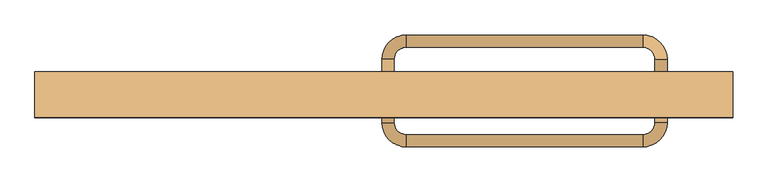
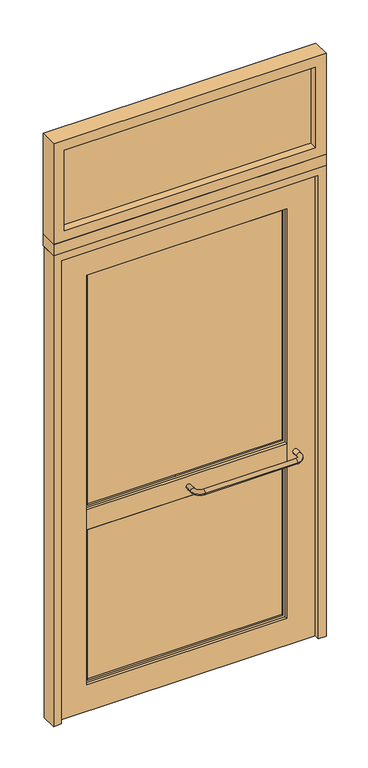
"""IFC4 building model written with IfcOpenShell, lengths in millimetres: door geometry, A3 Puerta batiente exterior VF superior : A3.3 Puerta batiente simple-exterior 115X260."""

from ifc_helpers import new_model, si_unit, point, frame, origin, place, context, project, spatial, polyline, circle_curve, ellipse_curve, trimmed, outline, extrude, source, transform, mapped, element, save
from ifc_brep_helpers import plane_surface, cylinder_surface, revolved_surface, advanced_brep


def door_468d9a70(model_context):
    return source(origin(), model_context, "Body", "SolidModel", [
        advanced_brep(
        [(17.0, -140.5, 855.0), (-3.0, -140.5, 855.0), (-3.0, -170.5, 855.0), (17.0, -170.5, 855.0), (37.0, -190.5, 855.0), (37.0, -210.5, 855.0), (427.0, -210.5, 855.0), (427.0, -190.5, 855.0), (447.0, -170.5, 855.0), (467.0, -170.5, 855.0), (447.0, -140.5, 855.0), (467.0, -140.5, 855.0)],
        [
            (0, 1, circle_curve(frame((7.0, -140.5, 855.0), z_axis=(0.0, 1.0, 0.0), x_axis=(-1.0, 0.0, 0.0)), 10.0)),
            (1, 0, circle_curve(frame((7.0, -140.5, 855.0), z_axis=(0.0, 1.0, 0.0), x_axis=(-1.0, 0.0, 0.0)), 10.0)),
            (1, 2),
            (2, 3, circle_curve(frame((7.0, -170.5, 855.0), z_axis=(0.0, 1.0, 0.0), x_axis=(-1.0, 0.0, 0.0)), 10.0)),
            (3, 0),
            (3, 2, circle_curve(frame((7.0, -170.5, 855.0), z_axis=(0.0, 1.0, 0.0), x_axis=(-1.0, 0.0, 0.0)), 10.0)),
            (4, 3, circle_curve(frame((37.0, -170.5, 855.0), z_axis=(0.0, 0.0, -1.0), x_axis=(-1.0, 0.0, 0.0)), 20.0)),
            (2, 5, circle_curve(frame((37.0, -170.5, 855.0), z_axis=(0.0, 0.0, 1.0), x_axis=(-1.0, 0.0, 0.0)), 40.0)),
            (5, 4, circle_curve(frame((37.0, -200.5, 855.0), z_axis=(-1.0, 0.0, 0.0), x_axis=(0.0, -1.0, 0.0)), 10.0)),
            (4, 5, circle_curve(frame((37.0, -200.5, 855.0), z_axis=(-1.0, 0.0, 0.0), x_axis=(0.0, -1.0, 0.0)), 10.0)),
            (5, 6),
            (6, 7, circle_curve(frame((427.0, -200.5, 855.0), z_axis=(-1.0, 0.0, 0.0), x_axis=(0.0, -1.0, 0.0)), 10.0)),
            (7, 4),
            (7, 6, circle_curve(frame((427.0, -200.5, 855.0), z_axis=(-1.0, 0.0, 0.0), x_axis=(0.0, -1.0, 0.0)), 10.0)),
            (8, 7, circle_curve(frame((427.0, -170.5, 855.0), z_axis=(0.0, 0.0, -1.0), x_axis=(0.0, -1.0, 0.0)), 20.0)),
            (6, 9, circle_curve(frame((427.0, -170.5, 855.0), z_axis=(0.0, 0.0, 1.0), x_axis=(0.0, -1.0, 0.0)), 40.0)),
            (9, 8, circle_curve(frame((457.0, -170.5, 855.0), z_axis=(0.0, -1.0, 0.0), x_axis=(1.0, 0.0, 0.0)), 10.0)),
            (8, 9, circle_curve(frame((457.0, -170.5, 855.0), z_axis=(0.0, -1.0, 0.0), x_axis=(1.0, 0.0, 0.0)), 10.0)),
            (10, 11, circle_curve(frame((457.0, -140.5, 855.0), z_axis=(0.0, 1.0, 0.0), x_axis=(1.0, 0.0, 0.0)), 10.0)),
            (11, 10, circle_curve(frame((457.0, -140.5, 855.0), z_axis=(0.0, 1.0, 0.0), x_axis=(1.0, 0.0, 0.0)), 10.0)),
            (9, 11),
            (10, 8),
        ],
        [
            plane_surface(frame((7.0, -140.5, 855.0), z_axis=(0.0, 1.0, 0.0), x_axis=(0.0, 0.0, 1.0))),
            cylinder_surface(frame((7.0, -140.5, 855.0), z_axis=(0.0, 1.0, 0.0), x_axis=(-1.0, 0.0, 0.0)), 10.0),
            revolved_surface(trimmed(ellipse_curve(frame((7.0, -170.5, 855.0), z_axis=(0.0, 1.0, 0.0), x_axis=(-1.0, 0.0, 0.0)), 10.0, 10.0), [point((-3.0, -170.5, 855.0))], [point((17.0, -170.5, 855.0))], True, "CARTESIAN"), (37.0, -170.5, 855.0), (0.0, 0.0, 1.0)),
            revolved_surface(trimmed(ellipse_curve(frame((7.0, -170.5, 855.0), z_axis=(0.0, 1.0, 0.0), x_axis=(-1.0, 0.0, 0.0)), 10.0, 10.0), [point((17.0, -170.5, 855.0))], [point((-3.0, -170.5, 855.0))], True, "CARTESIAN"), (37.0, -170.5, 855.0), (0.0, 0.0, 1.0)),
            cylinder_surface(frame((37.0, -200.5, 855.0), z_axis=(-1.0, 0.0, 0.0), x_axis=(0.0, -1.0, 0.0)), 10.0),
            revolved_surface(trimmed(ellipse_curve(frame((427.0, -200.5, 855.0), z_axis=(-1.0, 0.0, 0.0), x_axis=(0.0, -1.0, 0.0)), 10.0, 10.0), [point((427.0, -210.5, 855.0))], [point((427.0, -190.5, 855.0))], True, "CARTESIAN"), (427.0, -170.5, 855.0), (0.0, 0.0, 1.0)),
            revolved_surface(trimmed(ellipse_curve(frame((427.0, -200.5, 855.0), z_axis=(-1.0, 0.0, 0.0), x_axis=(0.0, -1.0, 0.0)), 10.0, 10.0), [point((427.0, -190.5, 855.0))], [point((427.0, -210.5, 855.0))], True, "CARTESIAN"), (427.0, -170.5, 855.0), (0.0, 0.0, 1.0)),
            plane_surface(frame((457.0, -140.5, 855.0), z_axis=(0.0, 1.0, 0.0), x_axis=(0.0, 0.0, 1.0))),
            cylinder_surface(frame((457.0, -170.5, 855.0), z_axis=(0.0, -1.0, 0.0), x_axis=(1.0, 0.0, 0.0)), 10.0),
        ],
        [
            (0, [[1, 2]]),
            (1, [[-2, 3, 4, 5]]),
            (1, [[-1, -5, 6, -3]]),
            (2, [[7, -4, 8, 9]]),
            (3, [[-8, -6, -7, 10]]),
            (4, [[-9, 11, 12, 13]]),
            (4, [[-10, -13, 14, -11]]),
            (5, [[15, -12, 16, 17]]),
            (6, [[-16, -14, -15, 18]]),
            (7, [[19, 20]]),
            (8, [[-17, 21, -19, 22]]),
            (8, [[-18, -22, -20, -21]]),
        ],
    ),
        advanced_brep(
        [(17.0, -96.5, 855.0), (-3.0, -96.5, 855.0), (17.0, -66.5, 855.0), (-3.0, -66.5, 855.0), (37.0, -46.5, 855.0), (37.0, -26.5, 855.0), (427.0, -46.5, 855.0), (427.0, -26.5, 855.0), (447.0, -66.5, 855.0), (467.0, -66.5, 855.0), (447.0, -96.5, 855.0), (467.0, -96.5, 855.0)],
        [
            (0, 1, circle_curve(frame((7.0, -96.5, 855.0), z_axis=(0.0, -1.0, 0.0), x_axis=(-1.0, 0.0, 0.0)), 10.0)),
            (1, 0, circle_curve(frame((7.0, -96.5, 855.0), z_axis=(0.0, -1.0, 0.0), x_axis=(-1.0, 0.0, 0.0)), 10.0)),
            (0, 2),
            (2, 3, circle_curve(frame((7.0, -66.5, 855.0), z_axis=(0.0, -1.0, 0.0), x_axis=(-1.0, 0.0, 0.0)), 10.0)),
            (3, 1),
            (3, 2, circle_curve(frame((7.0, -66.5, 855.0), z_axis=(0.0, -1.0, 0.0), x_axis=(-1.0, 0.0, 0.0)), 10.0)),
            (4, 5, circle_curve(frame((37.0, -36.5, 855.0), z_axis=(-1.0, 0.0, 0.0), x_axis=(0.0, 1.0, 0.0)), 10.0)),
            (5, 3, circle_curve(frame((37.0, -66.5, 855.0), z_axis=(0.0, 0.0, 1.0), x_axis=(-1.0, 0.0, 0.0)), 40.0)),
            (2, 4, circle_curve(frame((37.0, -66.5, 855.0), z_axis=(0.0, 0.0, -1.0), x_axis=(-1.0, 0.0, 0.0)), 20.0)),
            (5, 4, circle_curve(frame((37.0, -36.5, 855.0), z_axis=(-1.0, 0.0, 0.0), x_axis=(0.0, 1.0, 0.0)), 10.0)),
            (4, 6),
            (6, 7, circle_curve(frame((427.0, -36.5, 855.0), z_axis=(-1.0, 0.0, 0.0), x_axis=(0.0, 1.0, 0.0)), 10.0)),
            (7, 5),
            (7, 6, circle_curve(frame((427.0, -36.5, 855.0), z_axis=(-1.0, 0.0, 0.0), x_axis=(0.0, 1.0, 0.0)), 10.0)),
            (8, 9, circle_curve(frame((457.0, -66.5, 855.0), z_axis=(0.0, 1.0, 0.0), x_axis=(1.0, 0.0, 0.0)), 10.0)),
            (9, 7, circle_curve(frame((427.0, -66.5, 855.0), z_axis=(0.0, 0.0, 1.0), x_axis=(0.0, 1.0, 0.0)), 40.0)),
            (6, 8, circle_curve(frame((427.0, -66.5, 855.0), z_axis=(0.0, 0.0, -1.0), x_axis=(0.0, 1.0, 0.0)), 20.0)),
            (9, 8, circle_curve(frame((457.0, -66.5, 855.0), z_axis=(0.0, 1.0, 0.0), x_axis=(1.0, 0.0, 0.0)), 10.0)),
            (10, 11, circle_curve(frame((457.0, -96.5, 855.0), z_axis=(0.0, -1.0, 0.0), x_axis=(1.0, 0.0, 0.0)), 10.0)),
            (11, 10, circle_curve(frame((457.0, -96.5, 855.0), z_axis=(0.0, -1.0, 0.0), x_axis=(1.0, 0.0, 0.0)), 10.0)),
            (8, 10),
            (11, 9),
        ],
        [
            plane_surface(frame((7.0, -96.5, 855.0), z_axis=(0.0, -1.0, 0.0), x_axis=(0.0, 0.0, 1.0))),
            cylinder_surface(frame((7.0, -96.5, 855.0), z_axis=(0.0, -1.0, 0.0), x_axis=(-1.0, 0.0, 0.0)), 10.0),
            revolved_surface(trimmed(ellipse_curve(frame((7.0, -66.5, 855.0), z_axis=(0.0, 1.0, 0.0), x_axis=(-1.0, 0.0, 0.0)), 10.0, 10.0), [point((-3.0, -66.5, 855.0))], [point((17.0, -66.5, 855.0))], True, "CARTESIAN"), (37.0, -66.5, 855.0), (0.0, 0.0, 1.0)),
            revolved_surface(trimmed(ellipse_curve(frame((7.0, -66.5, 855.0), z_axis=(0.0, 1.0, 0.0), x_axis=(-1.0, 0.0, 0.0)), 10.0, 10.0), [point((17.0, -66.5, 855.0))], [point((-3.0, -66.5, 855.0))], True, "CARTESIAN"), (37.0, -66.5, 855.0), (0.0, 0.0, 1.0)),
            cylinder_surface(frame((37.0, -36.5, 855.0), z_axis=(-1.0, 0.0, 0.0), x_axis=(0.0, 1.0, 0.0)), 10.0),
            revolved_surface(trimmed(ellipse_curve(frame((427.0, -36.5, 855.0), z_axis=(1.0, 0.0, 0.0), x_axis=(0.0, 1.0, 0.0)), 10.0, 10.0), [point((427.0, -26.5, 855.0))], [point((427.0, -46.5, 855.0))], True, "CARTESIAN"), (427.0, -66.5, 855.0), (0.0, 0.0, 1.0)),
            revolved_surface(trimmed(ellipse_curve(frame((427.0, -36.5, 855.0), z_axis=(1.0, 0.0, 0.0), x_axis=(0.0, 1.0, 0.0)), 10.0, 10.0), [point((427.0, -46.5, 855.0))], [point((427.0, -26.5, 855.0))], True, "CARTESIAN"), (427.0, -66.5, 855.0), (0.0, 0.0, 1.0)),
            plane_surface(frame((457.0, -96.5, 855.0), z_axis=(0.0, -1.0, 0.0), x_axis=(0.0, 0.0, 1.0))),
            cylinder_surface(frame((457.0, -66.5, 855.0), z_axis=(0.0, 1.0, 0.0), x_axis=(1.0, 0.0, 0.0)), 10.0),
        ],
        [
            (0, [[1, 2]]),
            (1, [[3, 4, 5, -1]]),
            (1, [[-5, 6, -3, -2]]),
            (2, [[7, 8, -4, 9]]),
            (3, [[10, -9, -6, -8]]),
            (4, [[11, 12, 13, -7]]),
            (4, [[-13, 14, -11, -10]]),
            (5, [[15, 16, -12, 17]]),
            (6, [[18, -17, -14, -16]]),
            (7, [[19, 20]]),
            (8, [[21, -20, 22, -15]]),
            (8, [[-22, -19, -21, -18]]),
        ],
    ),
        extrude(outline(polyline([(575.0, -162.5), (-575.0, -162.5), (-575.0, -87.5), (575.0, -87.5), (575.0, -162.5)])), frame((0.0, 0.0, 2100.0), z_axis=(0.0, 0.0, 1.0), x_axis=(1.0, 0.0, 0.0)), (0.0, 0.0, 1.0), 50.0),
        extrude(outline(polyline([(2100.0, 575.0), (2100.0, -575.0), (0.0, -575.0), (0.0, -542.0), (2067.0, -542.0), (2067.0, 542.0), (0.0, 542.0), (0.0, 575.0), (2100.0, 575.0)])), frame((0.0, -162.5, 0.0), z_axis=(0.0, 1.0, 0.0), x_axis=(0.0, 0.0, 1.0)), (0.0, 0.0, 1.0), 66.0),
        extrude(outline(polyline([(2067.0, -542.0), (0.0, -542.0), (0.0, 542.0), (2067.0, 542.0), (2067.0, -542.0)]), holes=[polyline([(1947.0, -422.0), (1947.0, 422.0), (120.0, 422.0), (120.0, -422.0), (1947.0, -422.0)])]), frame((0.0, -140.5, 0.0), z_axis=(0.0, 1.0, 0.0), x_axis=(0.0, 0.0, 1.0)), (0.0, 0.0, 1.0), 44.0),
        extrude(outline(polyline([(422.0, -140.5), (-422.0, -140.5), (-422.0, -96.5), (422.0, -96.5), (422.0, -140.5)])), frame((0.0, 0.0, 810.0), z_axis=(0.0, 0.0, 1.0), x_axis=(1.0, 0.0, 0.0)), (0.0, 0.0, 1.0), 90.0),
        extrude(outline(polyline([(1947.0, -422.0), (900.0, -422.0), (900.0, 422.0), (1947.0, 422.0), (1947.0, -422.0)]), holes=[polyline([(1937.0, -412.0), (1937.0, 412.0), (910.0, 412.0), (910.0, -412.0), (1937.0, -412.0)])]), frame((0.0, -128.5, 0.0), z_axis=(0.0, 1.0, 0.0), x_axis=(0.0, 0.0, 1.0)), (0.0, 0.0, 1.0), 20.0),
        extrude(outline(polyline([(810.0, -422.0), (120.0, -422.0), (120.0, 422.0), (810.0, 422.0), (810.0, -422.0)]), holes=[polyline([(800.0, -412.0), (800.0, 412.0), (130.0, 412.0), (130.0, -412.0), (800.0, -412.0)])]), frame((0.0, -128.5, 0.0), z_axis=(0.0, 1.0, 0.0), x_axis=(0.0, 0.0, 1.0)), (0.0, 0.0, 1.0), 20.0),
        extrude(outline(polyline([(412.0, -121.5), (-412.0, -121.5), (-412.0, -115.5), (412.0, -115.5), (412.0, -121.5)])), frame((0.0, 0.0, 910.0), z_axis=(0.0, 0.0, 1.0), x_axis=(1.0, 0.0, 0.0)), (0.0, 0.0, 1.0), 1027.0),
        extrude(outline(polyline([(412.0, -121.5), (-412.0, -121.5), (-412.0, -115.5), (412.0, -115.5), (412.0, -121.5)])), frame((0.0, 0.0, 130.0), z_axis=(0.0, 0.0, 1.0), x_axis=(1.0, 0.0, 0.0)), (0.0, 0.0, 1.0), 670.0),
        extrude(outline(polyline([(530.0, -128.0), (-530.0, -128.0), (-530.0, -122.0), (530.0, -122.0), (530.0, -128.0)])), frame((0.0, 0.0, 2195.0), z_axis=(0.0, 0.0, 1.0), x_axis=(1.0, 0.0, 0.0)), (0.0, 0.0, 1.0), 360.0),
        extrude(outline(polyline([(2600.0, -575.0), (2150.0, -575.0), (2150.0, 575.0), (2600.0, 575.0), (2600.0, -575.0)]), holes=[polyline([(2555.0, -530.0), (2555.0, 530.0), (2195.0, 530.0), (2195.0, -530.0), (2555.0, -530.0)])]), frame((0.0, -162.5, 0.0), z_axis=(0.0, 1.0, 0.0), x_axis=(0.0, 0.0, 1.0)), (0.0, 0.0, 1.0), 75.0),
    ])


if __name__ == "__main__":
    model = new_model("IFC4")
    model_context = context("Model", 3, world=origin())
    ifc_project = project(units=[si_unit("LENGTHUNIT", "METRE", prefix="MILLI")], contexts=[model_context])
    site = spatial("IfcSite", under=ifc_project)
    building = spatial("IfcBuilding", under=site)
    placement = place(None, origin())
    door_shape = door_468d9a70(model_context)
    element("IfcDoor", 1, ObjectType="A3 Puerta batiente exterior VF superior : A3.3 Puerta batiente simple-exterior 115X260", at=placement, inside=building, context=model_context, shape_type="MappedRepresentation", body=[
        mapped(door_shape, transform((0.0, 0.0, 0.0), x_axis=(1.0, 0.0, 0.0), y_axis=(0.0, 1.0, 0.0), z_axis=(0.0, 0.0, 1.0))),
    ])
    save(model, "model.ifc")
